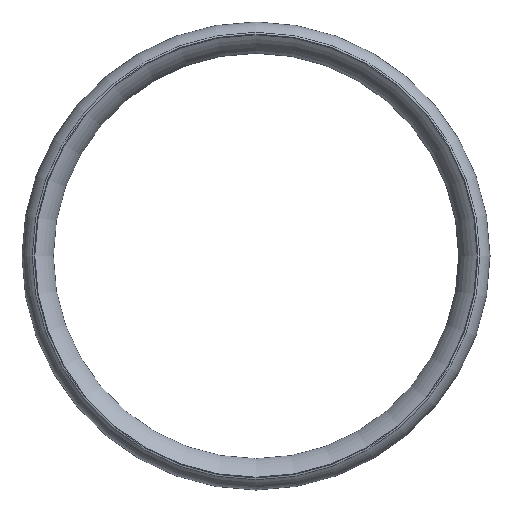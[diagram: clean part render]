
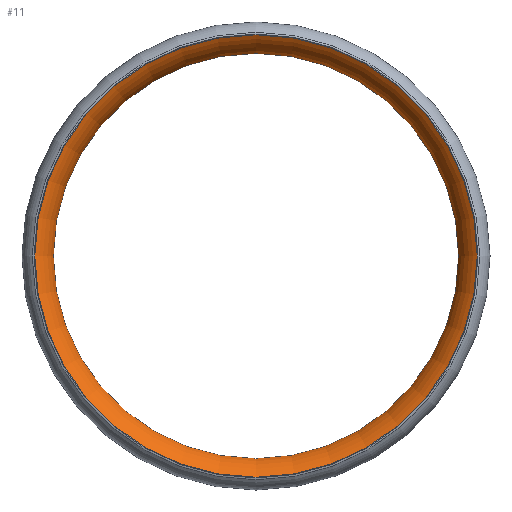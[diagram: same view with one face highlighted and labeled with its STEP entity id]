
A CAD part, front view. The second image highlights one B-rep face of the part: STEP entity #11.
In plain terms, the highlighted toroidal (fillet/blend) face has major radius 74.638 mm and minor radius 12.464 mm.
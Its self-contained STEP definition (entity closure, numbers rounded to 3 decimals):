
#11 = ADVANCED_FACE ( 'NONE', ( #30, #236 ), #143, .T. ) ;
#25 = DIRECTION ( 'NONE',  ( 0., 1., 0. ) ) ;
#30 = FACE_OUTER_BOUND ( 'NONE', #214, .T. ) ;
#43 = DIRECTION ( 'NONE',  ( 0., -1., 0. ) ) ;
#48 = CARTESIAN_POINT ( 'NONE',  ( 0., 24.407, 0. ) ) ;
#50 = AXIS2_PLACEMENT_3D ( 'NONE', #48, #25, #185 ) ;
#55 = EDGE_CURVE ( 'NONE', #123, #123, #167, .T. ) ;
#59 = AXIS2_PLACEMENT_3D ( 'NONE', #97, #120, #76 ) ;
#61 = CARTESIAN_POINT ( 'NONE',  ( 0., 31.407, -62.789 ) ) ;
#69 = ORIENTED_EDGE ( 'NONE', *, *, #233, .F. ) ;
#75 = AXIS2_PLACEMENT_3D ( 'NONE', #200, #43, #223 ) ;
#76 = DIRECTION ( 'NONE',  ( 0., 0., 1. ) ) ;
#90 = EDGE_LOOP ( 'NONE', ( #234 ) ) ;
#92 = VERTEX_POINT ( 'NONE', #199 ) ;
#97 = CARTESIAN_POINT ( 'NONE',  ( 0., 35.276, 0. ) ) ;
#104 = CIRCLE ( 'NONE', #50, 68.538 ) ;
#120 = DIRECTION ( 'NONE',  ( 0., 1., 0. ) ) ;
#123 = VERTEX_POINT ( 'NONE', #61 ) ;
#143 = TOROIDAL_SURFACE ( 'NONE', #59, 74.638, 12.464 ) ;
#167 = CIRCLE ( 'NONE', #75, 62.789 ) ;
#185 = DIRECTION ( 'NONE',  ( 0., 0., 1. ) ) ;
#199 = CARTESIAN_POINT ( 'NONE',  ( 0., 24.407, 68.538 ) ) ;
#200 = CARTESIAN_POINT ( 'NONE',  ( 0., 31.407, 0. ) ) ;
#214 = EDGE_LOOP ( 'NONE', ( #69 ) ) ;
#223 = DIRECTION ( 'NONE',  ( 0., 0., -1. ) ) ;
#233 = EDGE_CURVE ( 'NONE', #92, #92, #104, .T. ) ;
#234 = ORIENTED_EDGE ( 'NONE', *, *, #55, .F. ) ;
#236 = FACE_OUTER_BOUND ( 'NONE', #90, .T. ) ;
